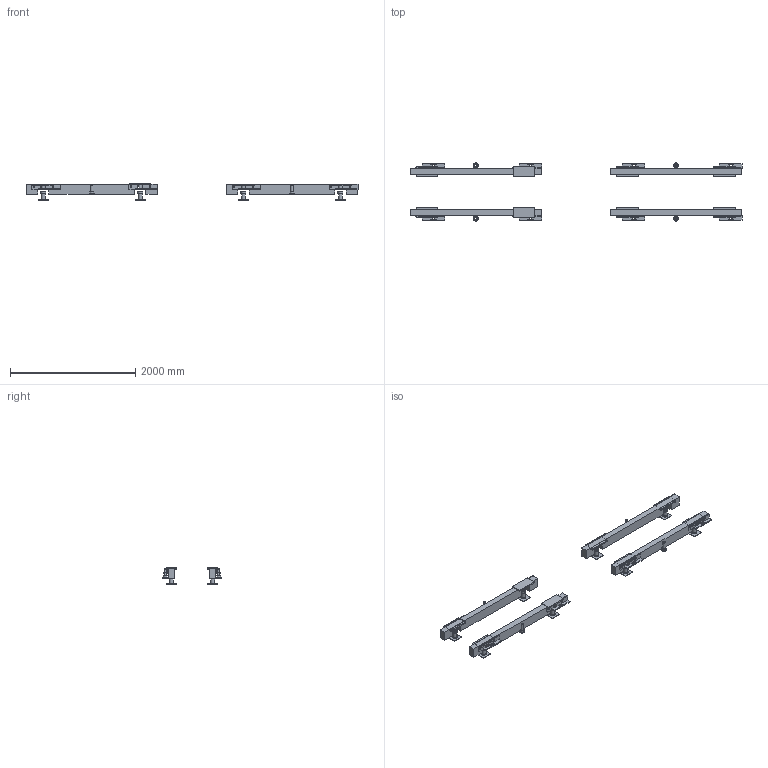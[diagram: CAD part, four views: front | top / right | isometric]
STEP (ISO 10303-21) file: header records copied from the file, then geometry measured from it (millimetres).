
FILE_DESCRIPTION(('Open CASCADE Model'),'2;1');
FILE_NAME('Open CASCADE Shape Model','2026-10-22T18:03:12',('Author'),( 'Open CASCADE'),'Open CASCADE STEP processor 7.8','Open CASCADE 7.8' ,'Unknown');
FILE_SCHEMA(('AUTOMOTIVE_DESIGN { 1 0 10303 214 1 1 1 1 }'));
Length unit declared in the file: millimetre
Products named in the file (81): Open CASCADE STEP translator 7.8 1; Open CASCADE STEP translator 7.8 1.1; Open CASCADE STEP translator 7.8 1.2; Open CASCADE STEP translator 7.8 1.3; Open CASCADE STEP translator 7.8 1.4; Open CASCADE STEP translator 7.8 1.5; Open CASCADE STEP translator 7.8 1.6; Open CASCADE STEP translator 7.8 1.7; Open CASCADE STEP translator 7.8 1.8; Open CASCADE STEP translator 7.8 1.9; Open CASCADE STEP translator 7.8 1.10; Open CASCADE STEP translator 7.8 1.11; Open CASCADE STEP translator 7.8 1.12; Open CASCADE STEP translator 7.8 1.13; Open CASCADE STEP translator 7.8 1.14; Open CASCADE STEP translator 7.8 1.15; Open CASCADE STEP translator 7.8 1.16; Open CASCADE STEP translator 7.8 1.17; Open CASCADE STEP translator 7.8 1.17.1; Open CASCADE STEP translator 7.8 1.17.2; Open CASCADE STEP translator 7.8 1.18; Open CASCADE STEP translator 7.8 1.19; Open CASCADE STEP translator 7.8 1.20; Open CASCADE STEP translator 7.8 1.21; Open CASCADE STEP translator 7.8 1.22; Open CASCADE STEP translator 7.8 1.23; Open CASCADE STEP translator 7.8 1.24; Open CASCADE STEP translator 7.8 1.25; Open CASCADE STEP translator 7.8 1.26; Open CASCADE STEP translator 7.8 1.27; Open CASCADE STEP translator 7.8 1.28; Open CASCADE STEP translator 7.8 1.29; Open CASCADE STEP translator 7.8 1.30; Open CASCADE STEP translator 7.8 1.31; Open CASCADE STEP translator 7.8 1.32; Open CASCADE STEP translator 7.8 1.33; Open CASCADE STEP translator 7.8 1.34; Open CASCADE STEP translator 7.8 1.34.1; Open CASCADE STEP translator 7.8 1.34.2; Open CASCADE STEP translator 7.8 1.35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
Assembly tree (80 placements, depth 3):
  Open CASCADE STEP translator 7.8 1
    Open CASCADE STEP translator 7.8 1.1
    Open CASCADE STEP translator 7.8 1.2
    Open CASCADE STEP translator 7.8 1.3
    Open CASCADE STEP translator 7.8 1.4
    Open CASCADE STEP translator 7.8 1.5
    Open CASCADE STEP translator 7.8 1.6
    Open CASCADE STEP translator 7.8 1.7
    Open CASCADE STEP translator 7.8 1.8
    Open CASCADE STEP translator 7.8 1.9
    Open CASCADE STEP translator 7.8 1.10
    Open CASCADE STEP translator 7.8 1.11
    Open CASCADE STEP translator 7.8 1.12
    Open CASCADE STEP translator 7.8 1.13
    Open CASCADE STEP translator 7.8 1.14
    Open CASCADE STEP translator 7.8 1.15
    Open CASCADE STEP translator 7.8 1.16
    Open CASCADE STEP translator 7.8 1.17
      Open CASCADE STEP translator 7.8 1.17.1
      Open CASCADE STEP translator 7.8 1.17.2
    Open CASCADE STEP translator 7.8 1.18
    Open CASCADE STEP translator 7.8 1.19
    Open CASCADE STEP translator 7.8 1.20
    Open CASCADE STEP translator 7.8 1.21
    Open CASCADE STEP translator 7.8 1.22
    Open CASCADE STEP translator 7.8 1.23
    Open CASCADE STEP translator 7.8 1.24
    Open CASCADE STEP translator 7.8 1.25
    Open CASCADE STEP translator 7.8 1.26
    Open CASCADE STEP translator 7.8 1.27
    Open CASCADE STEP translator 7.8 1.28
    Open CASCADE STEP translator 7.8 1.29
    Open CASCADE STEP translator 7.8 1.30
    Open CASCADE STEP translator 7.8 1.31
    Open CASCADE STEP translator 7.8 1.32
    Open CASCADE STEP translator 7.8 1.33
    Open CASCADE STEP translator 7.8 1.34
      Open CASCADE STEP translator 7.8 1.34.1
      Open CASCADE STEP translator 7.8 1.34.2
    Open CASCADE STEP translator 7.8 1.35
    Open CASCADE STEP translator 7.8 1.36
    Open CASCADE STEP translator 7.8 1.37
    Open CASCADE STEP translator 7.8 1.38
    Open CASCADE STEP translator 7.8 1.39
    Open CASCADE STEP translator 7.8 1.40
    Open CASCADE STEP translator 7.8 1.41
    Open CASCADE STEP translator 7.8 1.42
    Open CASCADE STEP translator 7.8 1.43
    Open CASCADE STEP translator 7.8 1.44
    Open CASCADE STEP translator 7.8 1.45
    Open CASCADE STEP translator 7.8 1.46
    Open CASCADE STEP translator 7.8 1.47
    Open CASCADE STEP translator 7.8 1.48
    Open CASCADE STEP translator 7.8 1.49
    Open CASCADE STEP translator 7.8 1.50
    Open CASCADE STEP translator 7.8 1.51
    Open CASCADE STEP translator 7.8 1.52
    Open CASCADE STEP translator 7.8 1.53
    Open CASCADE STEP translator 7.8 1.54
    Open CASCADE STEP translator 7.8 1.55
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Bounding box: 5305 x 930 x 266.02 mm (x, y, z)
Volume: 130325905.2 mm3; surface area: 7761408.4 mm2
Topology: 78 solids, 78 shells, 764 faces, 1736 edges, 1112 vertices
Faces by surface type: plane 516, cylinder 248
Full cylindrical faces by diameter (mm): 6 x16, 8.5 x56, 16 x32, 17 x32, 30 x12, 34 x8, 37.5 x8, 38 x4, 46 x8, 50 x8, 60 x8, 63 x4, 72 x8, 80 x28, 84 x8
Entity records: 50308 total; most frequent: CARTESIAN_POINT 13397, DIRECTION 6634, ORIENTED_EDGE 3472, PCURVE 3472, DEFINITIONAL_REPRESENTATION 3472, LINE 3336, VECTOR 3336, EDGE_CURVE 1736
